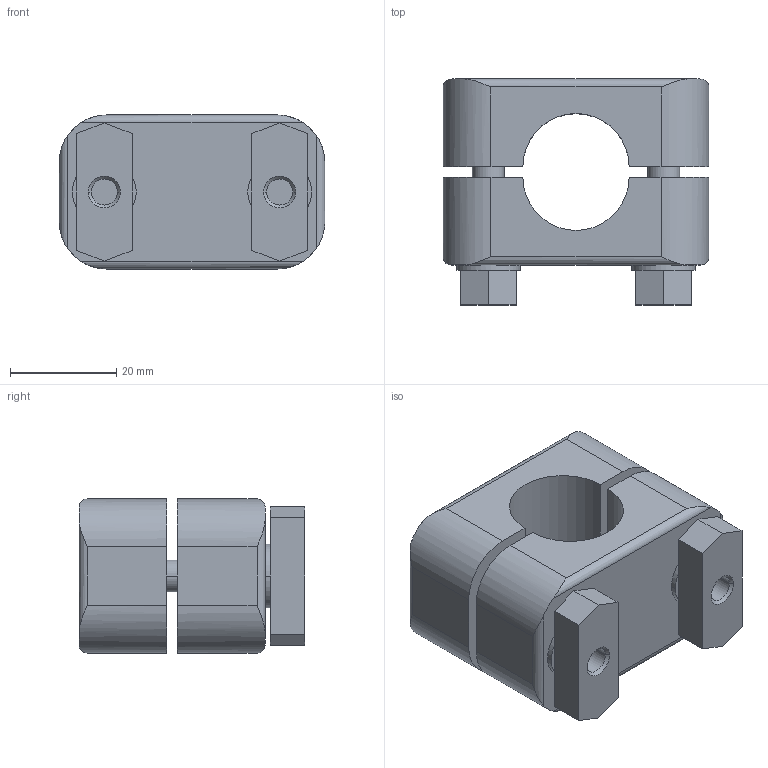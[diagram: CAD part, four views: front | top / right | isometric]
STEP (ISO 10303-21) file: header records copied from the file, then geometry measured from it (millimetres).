
FILE_DESCRIPTION( ( '' ), '1' );
FILE_NAME( '//partserver001.servicenet/client_exchange/iodir/jobs/output/wkb18252281_no6/STEP/e10192_2_03.stp', '2009-08-26T07:40:46', ( '' ), ( '' ), ' ', ' ', ' ' );
FILE_SCHEMA( ( 'CONFIG_CONTROL_DESIGN' ) );
Length unit declared in the file: millimetre
Products named in the file (6): 1; 2; 3; 4; 5; 6
Bounding box: 50 x 42.5 x 29 mm (x, y, z)
Volume: 38556.2 mm3; surface area: 16061 mm2
Topology: 6 solids, 6 shells, 126 faces, 310 edges, 200 vertices
Faces by surface type: plane 60, cylinder 50, cone 12, torus 4
Entity records: 4092 total; most frequent: CARTESIAN_POINT 814, DIRECTION 652, ORIENTED_EDGE 612, EDGE_CURVE 306, AXIS2_PLACEMENT_3D 246, VERTEX_POINT 200, LINE 160, VECTOR 160
